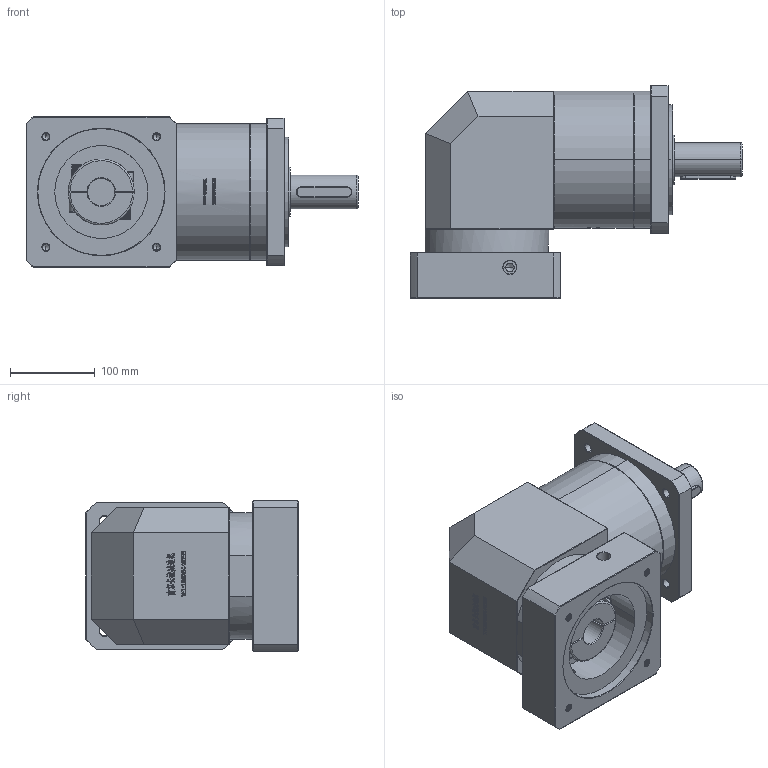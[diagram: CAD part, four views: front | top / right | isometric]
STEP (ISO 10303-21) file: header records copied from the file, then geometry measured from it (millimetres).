
FILE_DESCRIPTION (( 'STEP AP214' ), '1' );
FILE_NAME ('ZFR160A-D40-L2-32-150-185-M10.step', '2023-03-22T11:44:46', ( '' ), ( '' ), 'SwSTEP 2.0', 'SolidWorks 2016', '' );
FILE_SCHEMA (( 'AUTOMOTIVE_DESIGN' ));
Length unit declared in the file: millimetre
Products named in the file (1): ZFR160A-D40-L2-32-150-185-M10
Bounding box: 392.7 x 251.5 x 178 mm (x, y, z)
Volume: 7974110.3 mm3; surface area: 490650.4 mm2
Topology: 6 solids, 6 shells, 2514 faces, 6602 edges, 4242 vertices
Faces by surface type: plane 1273, bspline 501, cylinder 411, cone 307, torus 22
Entity records: 143528 total; most frequent: CARTESIAN_POINT 58318, ORIENTED_EDGE 13144, DIRECTION 9977, EDGE_CURVE 6572, VERTEX_POINT 4242, LINE 4149, VECTOR 4149, AXIS2_PLACEMENT_3D 2914
